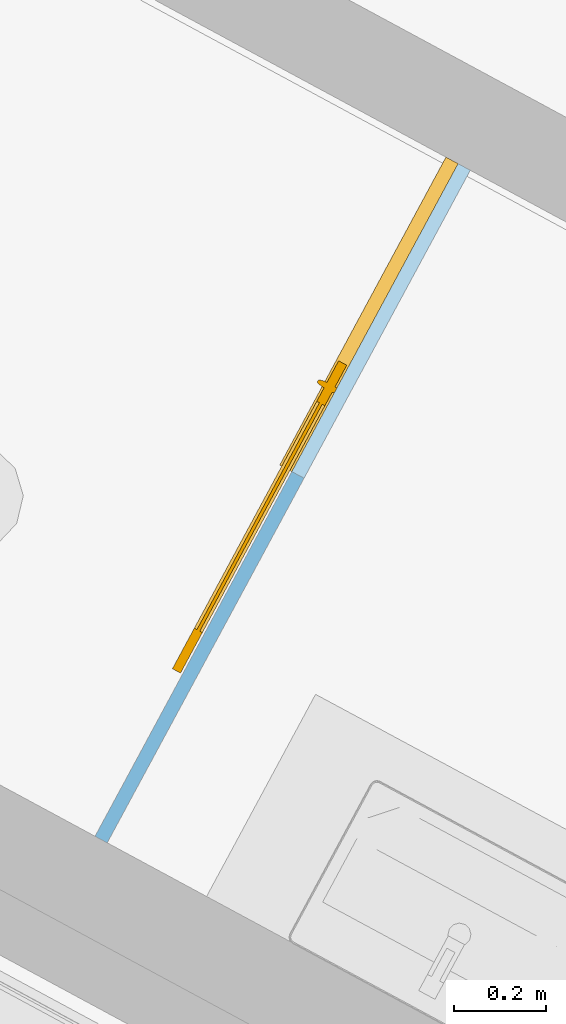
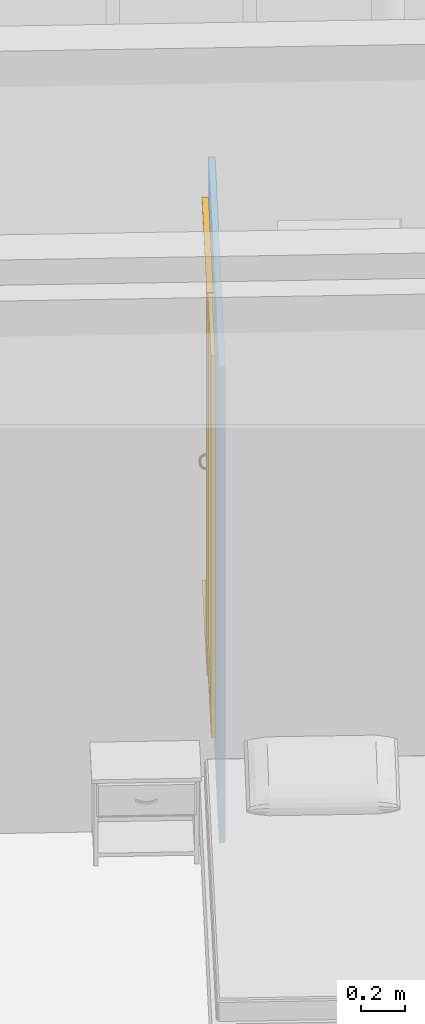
# One storey, part 7 of 41: 1 door, 1 opening, plus 1 element that does not belong to this part.
"""IFC2X3 building model written with IfcOpenShell, lengths in metres."""

from ifc_helpers import new_model, entity, si_unit, converted_unit, derived_unit, money_unit, direction, frame, origin_with_axes, place, context, subcontext, project, spatial, polyline, outline, extrude, faceted_brep, material, layer, layer_set, layer_usage, type_object, element, fill, save


model = new_model("IFC2X3")

# Units and contexts
model_context = context("Model", 3, precision=1e-05, world=origin_with_axes(), true_north=direction((0.0, 1.0)))
body_context = subcontext(model_context, "Body", "Model", "MODEL_VIEW")
ifc_project = project(units=[si_unit("LENGTHUNIT", "METRE"), si_unit("AREAUNIT", "SQUARE_METRE"), si_unit("VOLUMEUNIT", "CUBIC_METRE"), converted_unit("PLANEANGLEUNIT", "DEGREE", entity("IfcPlaneAngleMeasure", 0.0174532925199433), si_unit("PLANEANGLEUNIT", "RADIAN"), dimensions=[0, 0, 0, 0, 0, 0, 0]), money_unit("EUR"), converted_unit("TIMEUNIT", "Year", entity("IfcTimeMeasure", 31556926.0), si_unit("TIMEUNIT", "SECOND"), dimensions=[0, 0, 1, 0, 0, 0, 0]), si_unit("MASSUNIT", "GRAM", prefix="KILO"), si_unit("THERMODYNAMICTEMPERATUREUNIT", "DEGREE_CELSIUS"), si_unit("LUMINOUSINTENSITYUNIT", "LUMEN"), si_unit("ENERGYUNIT", "JOULE", prefix="MEGA"), derived_unit("THERMALCONDUCTANCEUNIT", [(si_unit("POWERUNIT", "WATT"), 1), (si_unit("LENGTHUNIT", "METRE"), -1), (si_unit("THERMODYNAMICTEMPERATUREUNIT", "KELVIN"), -1)]), derived_unit("SPECIFICHEATCAPACITYUNIT", [(si_unit("ENERGYUNIT", "JOULE"), 1), (si_unit("MASSUNIT", "GRAM", prefix="KILO"), -1), (si_unit("THERMODYNAMICTEMPERATUREUNIT", "KELVIN"), -1)]), derived_unit("MASSDENSITYUNIT", [(si_unit("MASSUNIT", "GRAM", prefix="KILO"), 1), (si_unit("VOLUMEUNIT", "CUBIC_METRE"), -1)])], contexts=[model_context])

# Site, building, storey
site_placement = place(None, frame((-3.949935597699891, 1.740105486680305, 0.0), z_axis=(0.0, 0.0, 1.0), x_axis=(0.8799804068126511, -0.475009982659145, 0.0)))
site = spatial("IfcSite", under=ifc_project, at=site_placement, Name="Gelände", CompositionType="ELEMENT")
building_placement = place(site_placement, origin_with_axes())
building = spatial("IfcBuilding", under=site, at=building_placement, Name="Gebäude", CompositionType="ELEMENT")
storey_placement = place(building_placement, frame((0.0, 0.0, 4.55), z_axis=(0.0, 0.0, 1.0), x_axis=(1.0, 0.0, 0.0)))
storey = spatial("IfcBuildingStorey", under=building, at=storey_placement, Name="Staffelgeschoss", CompositionType="ELEMENT", Elevation=4.55)

# Wall, opening, door
ifc_material = material(Name="Glas, Normalglas-50% durchlässig")
ifc_layer = layer(ifc_material, 0.03, ventilated="UNKNOWN")
ifc_layer_set = layer_set([ifc_layer], Name="Glas, Normalglas-50% durchlässig 0.03")
ifc_layer_usage = layer_usage(ifc_layer_set, "AXIS2", "NEGATIVE", 0.0)
wall_type = type_object("IfcWallType", Name="Glas, Normalglas-50% durchlässig 30", PredefinedType="USERDEFINED")
wall_placement = place(storey_placement, frame((6.782480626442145, 5.493065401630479, -0.2999999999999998), z_axis=(0.0, 0.0, 1.0), x_axis=(0.0, 1.0, 0.0)))
wall = element("IfcWallStandardCase", 1, at=wall_placement, inside=storey, type_object=wall_type, material=ifc_layer_usage, Name="L-Wand033", ObjectType="PARTITIONING", context=body_context, shape_type="SweptSolid", body=[
    extrude(outline(polyline([(0.0, -0.03000000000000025), (1.659970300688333, -0.03000000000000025), (1.659970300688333, 0.0), (0.0, 0.0), (0.0, -0.03000000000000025)])), origin_with_axes(), (0.0, 0.0, 1.0), 2.654999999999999),
])
opening_placement = place(wall_placement, frame((1.279970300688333, 0.0, 0.2999999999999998), z_axis=(0.0, 0.0, 1.0), x_axis=(1.0, 0.0, 0.0)))
opening = element("IfcOpeningElement", 2, at=opening_placement, cuts=wall, Name="Tür-017", context=body_context, shape_type="Brep", body=[
    faceted_brep([(-0.3799999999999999, 0.001000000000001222, 2.105), (-0.3799999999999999, 0.0, 2.105), (-0.3799999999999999, 0.0, 0.0), (-0.3799999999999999, -0.03100000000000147, 0.0), (-0.3799999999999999, -0.03100000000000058, 2.135), (-0.3799999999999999, 0.001000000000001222, 2.135), (-0.3799999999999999, 0.03000000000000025, 2.105), (-1.28, 0.03000000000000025, 2.105), (-1.28, 0.0, 2.105), (-1.28, 0.0, 0.0), (-0.3799999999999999, 0.001000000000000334, 0.0), (0.3799999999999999, 0.001000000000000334, 0.0), (0.3799999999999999, -0.03100000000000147, 0.0), (0.3799999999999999, -0.03100000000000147, 2.135), (0.3799999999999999, 0.001000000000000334, 2.135), (-0.3799999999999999, 0.03000000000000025, 0.0), (-1.28, 0.03000000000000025, 0.0)], [[[0, 1, 2, 3, 4, 5]], [[1, 0, 6, 7, 8]], [[2, 1, 8, 9]], [[2, 10, 11, 12, 3]], [[4, 3, 12, 13]], [[14, 5, 4, 13]], [[10, 0, 5, 14, 11]], [[0, 10, 15, 6]], [[7, 6, 15, 16]], [[8, 7, 16, 9]], [[10, 2, 9, 16, 15]], [[11, 14, 13, 12]]]),
])
door_style = type_object("IfcDoorStyle", Name="Schiebetür 02 1-Fl 26", ConstructionType="NOTDEFINED", OperationType="SLIDING_TO_LEFT", ParameterTakesPrecedence=False, Sizeable=False)
door_placement = place(opening_placement, frame((0.3799999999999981, 0.0, 0.0), z_axis=(0.0, 0.0, 1.0), x_axis=(-1.0, 0.0, 0.0)))
door = element("IfcDoor", 3, at=door_placement, inside=storey, type_object=door_style, Name="Tür-017", ObjectType="DOOR", OverallHeight=2.135, OverallWidth=0.76, context=body_context, shape_type="Brep", body=[
    faceted_brep([(4.999999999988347e-05, 0.0, 0.0), (4.999999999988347e-05, 0.0, 0.003000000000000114), (0.7599499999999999, 0.0, 0.003000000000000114), (0.7599499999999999, 0.0, 0.0), (4.999999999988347e-05, -0.03000000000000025, 0.0), (4.999999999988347e-05, -0.03000000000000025, 0.003000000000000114), (0.7599499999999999, -0.03000000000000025, 0.003000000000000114), (0.7599499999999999, -0.03000000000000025, 0.0)], [[[0, 1, 2, 3]], [[0, 4, 5, 1]], [[1, 5, 6, 2]], [[3, 2, 6, 7]], [[4, 0, 3, 7]], [[5, 4, 7, 6]]]),
    faceted_brep([(4.999999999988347e-05, 0.0, 2.134899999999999), (4.999999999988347e-05, -0.03000000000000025, 2.134899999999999), (0.7599499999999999, -0.03000000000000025, 2.134899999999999), (0.7599499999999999, 0.0, 2.134899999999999), (4.999999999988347e-05, 0.0, 2.124899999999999), (4.999999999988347e-05, -0.003000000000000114, 2.124899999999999), (4.999999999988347e-05, -0.003000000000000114, 2.131899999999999), (4.999999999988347e-05, -0.02700000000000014, 2.131899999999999), (4.999999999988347e-05, -0.02700000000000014, 2.124899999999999), (4.999999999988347e-05, -0.03000000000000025, 2.124899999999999), (0.7599499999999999, -0.03000000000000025, 2.124899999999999), (0.7599499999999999, -0.02700000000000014, 2.124899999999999), (0.7599499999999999, -0.02700000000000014, 2.131899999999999), (0.7599499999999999, -0.003000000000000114, 2.131899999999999), (0.7599499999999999, -0.003000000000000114, 2.124899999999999), (0.7599499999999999, 0.0, 2.124899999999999)], [[[0, 1, 2, 3]], [[0, 4, 5, 6, 7, 8, 9, 1]], [[1, 9, 10, 2]], [[3, 2, 10, 11, 12, 13, 14, 15]], [[4, 0, 3, 15]], [[5, 4, 15, 14]], [[6, 5, 14, 13]], [[7, 6, 13, 12]], [[8, 7, 12, 11]], [[9, 8, 11, 10]]]),
    faceted_brep([(1.25995, -0.004999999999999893, 0.1029999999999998), (1.25995, -0.02500000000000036, 0.1029999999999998), (1.15995, -0.02500000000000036, 0.1029999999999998), (1.15995, -0.004999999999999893, 0.1029999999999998), (1.25995, -0.004999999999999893, 2.031899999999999), (1.25995, -0.02500000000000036, 2.031899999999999), (1.15995, -0.02500000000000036, 2.031899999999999), (1.15995, -0.004999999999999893, 2.031899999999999)], [[[0, 1, 2, 3]], [[4, 5, 1, 0]], [[1, 5, 6, 2]], [[3, 2, 6, 7]], [[0, 3, 7, 4]], [[7, 6, 5, 4]]]),
    faceted_brep([(0.5000499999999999, -0.004999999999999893, 2.031899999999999), (0.5000499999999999, -0.02500000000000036, 2.031899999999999), (0.6000499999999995, -0.02500000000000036, 2.031899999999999), (0.6000499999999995, -0.004999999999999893, 2.031899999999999), (0.5000499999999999, -0.004999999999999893, 0.1029999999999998), (0.5000499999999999, -0.02500000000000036, 0.1029999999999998), (0.6000499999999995, -0.02500000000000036, 0.1029999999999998), (0.6000499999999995, -0.004999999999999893, 0.1029999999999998)], [[[0, 1, 2, 3]], [[4, 5, 1, 0]], [[1, 5, 6, 2]], [[3, 2, 6, 7]], [[0, 3, 7, 4]], [[7, 6, 5, 4]]]),
    faceted_brep([(0.5000499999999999, -0.004999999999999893, 0.003000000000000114), (0.5000499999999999, -0.02500000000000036, 0.003000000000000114), (0.5000499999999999, -0.02500000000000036, 0.1029999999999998), (0.5000499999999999, -0.004999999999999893, 0.1029999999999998), (1.25995, -0.004999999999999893, 0.003000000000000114), (1.25995, -0.02500000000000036, 0.003000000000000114), (1.25995, -0.02500000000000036, 0.1029999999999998), (1.15995, -0.02500000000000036, 0.1029999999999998), (0.6000499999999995, -0.02500000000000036, 0.1029999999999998), (0.6000499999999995, -0.004999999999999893, 0.1029999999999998), (1.15995, -0.004999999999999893, 0.1029999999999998), (1.25995, -0.004999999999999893, 0.1029999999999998)], [[[0, 1, 2, 3]], [[4, 5, 1, 0]], [[1, 5, 6, 7, 8, 2]], [[3, 2, 8, 9]], [[0, 3, 9, 10, 11, 4]], [[11, 6, 5, 4]], [[10, 7, 6, 11]], [[9, 8, 7, 10]]]),
    faceted_brep([(1.25995, -0.004999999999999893, 2.131899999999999), (1.25995, -0.02500000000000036, 2.131899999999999), (1.25995, -0.02500000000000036, 2.031899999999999), (1.25995, -0.004999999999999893, 2.031899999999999), (0.5000499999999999, -0.004999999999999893, 2.131899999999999), (0.5000499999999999, -0.02500000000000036, 2.131899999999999), (0.5000499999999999, -0.02500000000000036, 2.031899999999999), (0.6000499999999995, -0.02500000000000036, 2.031899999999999), (1.15995, -0.02500000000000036, 2.031899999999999), (1.15995, -0.004999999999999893, 2.031899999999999), (0.6000499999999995, -0.004999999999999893, 2.031899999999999), (0.5000499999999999, -0.004999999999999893, 2.031899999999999)], [[[0, 1, 2, 3]], [[4, 5, 1, 0]], [[1, 5, 6, 7, 8, 2]], [[3, 2, 8, 9]], [[0, 3, 9, 10, 11, 4]], [[11, 6, 5, 4]], [[10, 7, 6, 11]], [[9, 8, 7, 10]]]),
    faceted_brep([(1.15995, -0.01149999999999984, 0.1029999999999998), (1.15995, -0.01850000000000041, 0.1029999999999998), (0.6000499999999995, -0.01850000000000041, 0.1029999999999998), (0.6000499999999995, -0.01149999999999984, 0.1029999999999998), (1.15995, -0.01149999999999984, 2.0379), (1.15995, -0.01850000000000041, 2.0379), (0.6000499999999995, -0.01850000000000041, 2.0379), (0.6000499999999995, -0.01149999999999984, 2.0379)], [[[0, 1, 2, 3]], [[4, 5, 1, 0]], [[1, 5, 6, 2]], [[3, 2, 6, 7]], [[0, 3, 7, 4]], [[7, 6, 5, 4]]]),
    faceted_brep([(0.56705, -0.04000000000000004, 1.088980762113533), (0.56705, -0.02500000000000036, 1.093), (0.5661121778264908, -0.02500000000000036, 1.0965), (0.5661121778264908, -0.0417500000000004, 1.092011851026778), (0.5661121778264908, -0.03824999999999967, 1.085949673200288), (0.5661121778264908, -0.02500000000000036, 1.0895), (0.5635500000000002, -0.02500000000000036, 1.086937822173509), (0.5600499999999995, -0.02500000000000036, 1.085999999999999), (0.5565499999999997, -0.02500000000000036, 1.086937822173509), (0.5539878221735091, -0.02500000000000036, 1.0895), (0.5530499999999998, -0.02500000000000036, 1.093), (0.5539878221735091, -0.02500000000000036, 1.0965), (0.5565499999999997, -0.02500000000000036, 1.099062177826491), (0.5600499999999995, -0.02500000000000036, 1.1), (0.5635500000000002, -0.02500000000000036, 1.099062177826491), (0.5635500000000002, -0.0430310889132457, 1.094230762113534), (0.56705, -0.0509807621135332, 1.078), (0.5661121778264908, -0.05401185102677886, 1.07975), (0.5635500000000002, -0.03696891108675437, 1.083730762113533), (0.5661121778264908, -0.04794967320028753, 1.07625), (0.5600499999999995, -0.0365000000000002, 1.082918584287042), (0.5565499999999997, -0.03696891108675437, 1.083730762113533), (0.5539878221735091, -0.03824999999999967, 1.085949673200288), (0.5530499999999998, -0.04000000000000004, 1.088980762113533), (0.5539878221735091, -0.0417500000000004, 1.092011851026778), (0.5565499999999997, -0.0430310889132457, 1.094230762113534), (0.5600499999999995, -0.04349999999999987, 1.095042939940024), (0.5635500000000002, -0.05623076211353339, 1.081031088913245), (0.56705, -0.05499999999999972, 1.063), (0.5661121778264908, -0.05850000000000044, 1.063), (0.5635500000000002, -0.045730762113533, 1.074968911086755), (0.5661121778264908, -0.05149999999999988, 1.063), (0.5600499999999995, -0.04491858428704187, 1.0745), (0.5565499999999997, -0.045730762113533, 1.074968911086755), (0.5539878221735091, -0.04794967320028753, 1.07625), (0.5530499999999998, -0.0509807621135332, 1.078), (0.5539878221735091, -0.05401185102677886, 1.07975), (0.5565499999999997, -0.05623076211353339, 1.081031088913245), (0.5600499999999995, -0.05704293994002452, 1.0815), (0.5635500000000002, -0.06106217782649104, 1.063), (0.5600499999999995, -0.06200000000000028, 1.063), (0.5565499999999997, -0.06106217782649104, 1.063), (0.5539878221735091, -0.05850000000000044, 1.063), (0.5530499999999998, -0.05499999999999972, 1.063), (0.5539878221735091, -0.05149999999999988, 1.063), (0.5565499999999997, -0.04893782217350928, 1.063), (0.5600499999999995, -0.04800000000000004, 1.063), (0.5635500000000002, -0.04893782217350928, 1.063)], [[[0, 1, 2, 3]], [[4, 5, 1, 0]], [[1, 5, 6, 7, 8, 9, 10, 11, 12, 13, 14, 2]], [[3, 2, 14, 15]], [[16, 0, 3, 17]], [[18, 6, 5, 4]], [[19, 4, 0, 16]], [[20, 7, 6, 18]], [[21, 8, 7, 20]], [[22, 9, 8, 21]], [[23, 10, 9, 22]], [[24, 11, 10, 23]], [[25, 12, 11, 24]], [[26, 13, 12, 25]], [[15, 14, 13, 26]], [[17, 3, 15, 27]], [[28, 16, 17, 29]], [[30, 18, 4, 19]], [[31, 19, 16, 28]], [[32, 20, 18, 30]], [[33, 21, 20, 32]], [[34, 22, 21, 33]], [[35, 23, 22, 34]], [[36, 24, 23, 35]], [[37, 25, 24, 36]], [[38, 26, 25, 37]], [[27, 15, 26, 38]], [[29, 17, 27, 39]], [[28, 29, 39, 40, 41, 42, 43, 44, 45, 46, 47, 31]], [[47, 30, 19, 31]], [[46, 32, 30, 47]], [[45, 33, 32, 46]], [[44, 34, 33, 45]], [[43, 35, 34, 44]], [[42, 36, 35, 43]], [[41, 37, 36, 42]], [[40, 38, 37, 41]], [[39, 27, 38, 40]]]),
    faceted_brep([(0.5530499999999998, -0.04000000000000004, 1.017019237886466), (0.5530499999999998, -0.02500000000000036, 1.013), (0.5539878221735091, -0.02500000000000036, 1.0095), (0.5539878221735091, -0.0417500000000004, 1.013988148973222), (0.5539878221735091, -0.03824999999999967, 1.020050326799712), (0.5539878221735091, -0.02500000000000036, 1.0165), (0.5565499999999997, -0.02500000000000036, 1.019062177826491), (0.5600499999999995, -0.02500000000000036, 1.02), (0.5635500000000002, -0.02500000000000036, 1.019062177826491), (0.5661121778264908, -0.02500000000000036, 1.0165), (0.56705, -0.02500000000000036, 1.013), (0.5661121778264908, -0.02500000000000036, 1.0095), (0.5635500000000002, -0.02500000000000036, 1.006937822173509), (0.5600499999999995, -0.02500000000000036, 1.006), (0.5565499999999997, -0.02500000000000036, 1.006937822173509), (0.5565499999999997, -0.0430310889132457, 1.011769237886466), (0.5530499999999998, -0.0509807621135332, 1.028), (0.5539878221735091, -0.05401185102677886, 1.02625), (0.5565499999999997, -0.03696891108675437, 1.022269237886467), (0.5539878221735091, -0.04794967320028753, 1.02975), (0.5600499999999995, -0.0365000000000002, 1.023081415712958), (0.5635500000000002, -0.03696891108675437, 1.022269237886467), (0.5661121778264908, -0.03824999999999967, 1.020050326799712), (0.56705, -0.04000000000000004, 1.017019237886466), (0.5661121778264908, -0.0417500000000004, 1.013988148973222), (0.5635500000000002, -0.0430310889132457, 1.011769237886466), (0.5600499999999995, -0.04349999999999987, 1.010957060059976), (0.5565499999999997, -0.05623076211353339, 1.024968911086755), (0.5530499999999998, -0.05499999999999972, 1.043), (0.5539878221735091, -0.05850000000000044, 1.043), (0.5565499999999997, -0.045730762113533, 1.031031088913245), (0.5539878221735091, -0.05149999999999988, 1.043), (0.5600499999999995, -0.04491858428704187, 1.0315), (0.5635500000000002, -0.045730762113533, 1.031031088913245), (0.5661121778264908, -0.04794967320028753, 1.02975), (0.56705, -0.0509807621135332, 1.028), (0.5661121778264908, -0.05401185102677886, 1.02625), (0.5635500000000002, -0.05623076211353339, 1.024968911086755), (0.5600499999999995, -0.05704293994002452, 1.0245), (0.5565499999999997, -0.06106217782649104, 1.043), (0.5600499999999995, -0.06200000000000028, 1.043), (0.5635500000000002, -0.06106217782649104, 1.043), (0.5661121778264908, -0.05850000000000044, 1.043), (0.56705, -0.05499999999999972, 1.043), (0.5661121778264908, -0.05149999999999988, 1.043), (0.5635500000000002, -0.04893782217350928, 1.043), (0.5600499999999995, -0.04800000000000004, 1.043), (0.5565499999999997, -0.04893782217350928, 1.043)], [[[0, 1, 2, 3]], [[4, 5, 1, 0]], [[1, 5, 6, 7, 8, 9, 10, 11, 12, 13, 14, 2]], [[3, 2, 14, 15]], [[16, 0, 3, 17]], [[18, 6, 5, 4]], [[19, 4, 0, 16]], [[20, 7, 6, 18]], [[21, 8, 7, 20]], [[22, 9, 8, 21]], [[23, 10, 9, 22]], [[24, 11, 10, 23]], [[25, 12, 11, 24]], [[26, 13, 12, 25]], [[15, 14, 13, 26]], [[17, 3, 15, 27]], [[28, 16, 17, 29]], [[30, 18, 4, 19]], [[31, 19, 16, 28]], [[32, 20, 18, 30]], [[33, 21, 20, 32]], [[34, 22, 21, 33]], [[35, 23, 22, 34]], [[36, 24, 23, 35]], [[37, 25, 24, 36]], [[38, 26, 25, 37]], [[27, 15, 26, 38]], [[29, 17, 27, 39]], [[28, 29, 39, 40, 41, 42, 43, 44, 45, 46, 47, 31]], [[47, 30, 19, 31]], [[46, 32, 30, 47]], [[45, 33, 32, 46]], [[44, 34, 33, 45]], [[43, 35, 34, 44]], [[42, 36, 35, 43]], [[41, 37, 36, 42]], [[40, 38, 37, 41]], [[39, 27, 38, 40]]]),
    faceted_brep([(0.56705, -0.05499999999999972, 1.043), (0.5661121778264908, -0.05149999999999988, 1.043), (0.5661121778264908, -0.05149999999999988, 1.063), (0.56705, -0.05499999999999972, 1.063), (0.5661121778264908, -0.05850000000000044, 1.043), (0.5635500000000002, -0.06106217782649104, 1.043), (0.5600499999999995, -0.06200000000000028, 1.043), (0.5565499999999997, -0.06106217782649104, 1.043), (0.5539878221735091, -0.05850000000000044, 1.043), (0.5530499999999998, -0.05499999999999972, 1.043), (0.5539878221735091, -0.05149999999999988, 1.043), (0.5565499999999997, -0.04893782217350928, 1.043), (0.5600499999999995, -0.04800000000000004, 1.043), (0.5635500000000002, -0.04893782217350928, 1.043), (0.5635500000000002, -0.04893782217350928, 1.063), (0.5600499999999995, -0.04800000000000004, 1.063), (0.5565499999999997, -0.04893782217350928, 1.063), (0.5539878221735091, -0.05149999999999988, 1.063), (0.5530499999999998, -0.05499999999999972, 1.063), (0.5539878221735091, -0.05850000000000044, 1.063), (0.5565499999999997, -0.06106217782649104, 1.063), (0.5600499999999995, -0.06200000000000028, 1.063), (0.5635500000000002, -0.06106217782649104, 1.063), (0.5661121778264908, -0.05850000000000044, 1.063)], [[[0, 1, 2, 3]], [[0, 4, 5, 6, 7, 8, 9, 10, 11, 12, 13, 1]], [[1, 13, 14, 2]], [[3, 2, 14, 15, 16, 17, 18, 19, 20, 21, 22, 23]], [[4, 0, 3, 23]], [[5, 4, 23, 22]], [[6, 5, 22, 21]], [[7, 6, 21, 20]], [[8, 7, 20, 19]], [[9, 8, 19, 18]], [[10, 9, 18, 17]], [[11, 10, 17, 16]], [[12, 11, 16, 15]], [[13, 12, 15, 14]]]),
    faceted_brep([(0.56705, 0.009999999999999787, 1.088980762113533), (0.5661121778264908, 0.01175000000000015, 1.092011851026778), (0.5661121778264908, -0.004999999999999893, 1.0965), (0.56705, -0.004999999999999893, 1.093), (0.56705, 0.02098076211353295, 1.078), (0.5661121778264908, 0.02401185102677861, 1.07975), (0.5635500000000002, 0.01303108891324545, 1.094230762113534), (0.5635500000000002, -0.004999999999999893, 1.099062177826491), (0.5600499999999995, -0.004999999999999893, 1.1), (0.5565499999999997, -0.004999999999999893, 1.099062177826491), (0.5539878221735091, -0.004999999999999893, 1.0965), (0.5530499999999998, -0.004999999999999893, 1.093), (0.5539878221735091, -0.004999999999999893, 1.0895), (0.5565499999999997, -0.004999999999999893, 1.086937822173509), (0.5600499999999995, -0.004999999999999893, 1.085999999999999), (0.5635500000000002, -0.004999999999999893, 1.086937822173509), (0.5661121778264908, -0.004999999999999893, 1.0895), (0.5661121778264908, 0.008250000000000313, 1.085949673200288), (0.56705, 0.02499999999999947, 1.063), (0.5661121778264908, 0.02850000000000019, 1.063), (0.5635500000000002, 0.02623076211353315, 1.081031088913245), (0.5661121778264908, 0.01794967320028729, 1.07625), (0.5600499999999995, 0.01349999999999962, 1.095042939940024), (0.5565499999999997, 0.01303108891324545, 1.094230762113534), (0.5539878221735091, 0.01175000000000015, 1.092011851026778), (0.5530499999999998, 0.009999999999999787, 1.088980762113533), (0.5539878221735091, 0.008250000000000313, 1.085949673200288), (0.5565499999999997, 0.006968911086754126, 1.083730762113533), (0.5600499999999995, 0.00649999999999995, 1.082918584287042), (0.5635500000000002, 0.006968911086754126, 1.083730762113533), (0.5661121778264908, 0.02149999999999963, 1.063), (0.5635500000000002, 0.01893782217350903, 1.063), (0.5600499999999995, 0.01799999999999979, 1.063), (0.5565499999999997, 0.01893782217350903, 1.063), (0.5539878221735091, 0.02149999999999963, 1.063), (0.5530499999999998, 0.02499999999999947, 1.063), (0.5539878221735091, 0.02850000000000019, 1.063), (0.5565499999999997, 0.03106217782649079, 1.063), (0.5600499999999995, 0.03200000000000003, 1.063), (0.5635500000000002, 0.03106217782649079, 1.063), (0.5600499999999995, 0.02704293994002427, 1.0815), (0.5635500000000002, 0.01573076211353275, 1.074968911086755), (0.5565499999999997, 0.02623076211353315, 1.081031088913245), (0.5539878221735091, 0.02401185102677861, 1.07975), (0.5530499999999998, 0.02098076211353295, 1.078), (0.5539878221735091, 0.01794967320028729, 1.07625), (0.5565499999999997, 0.01573076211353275, 1.074968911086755), (0.5600499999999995, 0.01491858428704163, 1.0745)], [[[0, 1, 2, 3]], [[4, 5, 1, 0]], [[1, 6, 7, 2]], [[3, 2, 7, 8, 9, 10, 11, 12, 13, 14, 15, 16]], [[17, 0, 3, 16]], [[18, 19, 5, 4]], [[5, 20, 6, 1]], [[21, 4, 0, 17]], [[6, 22, 8, 7]], [[22, 23, 9, 8]], [[23, 24, 10, 9]], [[24, 25, 11, 10]], [[25, 26, 12, 11]], [[26, 27, 13, 12]], [[27, 28, 14, 13]], [[28, 29, 15, 14]], [[29, 17, 16, 15]], [[18, 30, 31, 32, 33, 34, 35, 36, 37, 38, 39, 19]], [[19, 39, 20, 5]], [[30, 18, 4, 21]], [[20, 40, 22, 6]], [[41, 21, 17, 29]], [[40, 42, 23, 22]], [[42, 43, 24, 23]], [[43, 44, 25, 24]], [[44, 45, 26, 25]], [[45, 46, 27, 26]], [[46, 47, 28, 27]], [[47, 41, 29, 28]], [[31, 30, 21, 41]], [[32, 31, 41, 47]], [[33, 32, 47, 46]], [[34, 33, 46, 45]], [[35, 34, 45, 44]], [[36, 35, 44, 43]], [[37, 36, 43, 42]], [[38, 37, 42, 40]], [[39, 38, 40, 20]]]),
    faceted_brep([(0.5530499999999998, 0.009999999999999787, 1.017019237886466), (0.5539878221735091, 0.01175000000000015, 1.013988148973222), (0.5539878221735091, -0.004999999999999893, 1.0095), (0.5530499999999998, -0.004999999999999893, 1.013), (0.5530499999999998, 0.02098076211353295, 1.028), (0.5539878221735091, 0.02401185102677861, 1.02625), (0.5565499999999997, 0.01303108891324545, 1.011769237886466), (0.5565499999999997, -0.004999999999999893, 1.006937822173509), (0.5600499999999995, -0.004999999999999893, 1.006), (0.5635500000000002, -0.004999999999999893, 1.006937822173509), (0.5661121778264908, -0.004999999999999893, 1.0095), (0.56705, -0.004999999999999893, 1.013), (0.5661121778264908, -0.004999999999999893, 1.0165), (0.5635500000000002, -0.004999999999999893, 1.019062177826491), (0.5600499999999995, -0.004999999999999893, 1.02), (0.5565499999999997, -0.004999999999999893, 1.019062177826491), (0.5539878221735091, -0.004999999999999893, 1.0165), (0.5539878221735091, 0.008250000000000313, 1.020050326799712), (0.5530499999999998, 0.02499999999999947, 1.043), (0.5539878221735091, 0.02850000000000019, 1.043), (0.5565499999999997, 0.02623076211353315, 1.024968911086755), (0.5539878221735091, 0.01794967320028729, 1.02975), (0.5600499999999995, 0.01349999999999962, 1.010957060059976), (0.5635500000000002, 0.01303108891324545, 1.011769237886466), (0.5661121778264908, 0.01175000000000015, 1.013988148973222), (0.56705, 0.009999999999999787, 1.017019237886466), (0.5661121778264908, 0.008250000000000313, 1.020050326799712), (0.5635500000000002, 0.006968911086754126, 1.022269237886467), (0.5600499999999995, 0.00649999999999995, 1.023081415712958), (0.5565499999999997, 0.006968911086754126, 1.022269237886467), (0.5539878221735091, 0.02149999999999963, 1.043), (0.5565499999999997, 0.01893782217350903, 1.043), (0.5600499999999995, 0.01799999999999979, 1.043), (0.5635500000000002, 0.01893782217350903, 1.043), (0.5661121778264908, 0.02149999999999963, 1.043), (0.56705, 0.02499999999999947, 1.043), (0.5661121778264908, 0.02850000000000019, 1.043), (0.5635500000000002, 0.03106217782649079, 1.043), (0.5600499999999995, 0.03200000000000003, 1.043), (0.5565499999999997, 0.03106217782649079, 1.043), (0.5600499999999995, 0.02704293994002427, 1.0245), (0.5565499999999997, 0.01573076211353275, 1.031031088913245), (0.5635500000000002, 0.02623076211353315, 1.024968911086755), (0.5661121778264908, 0.02401185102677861, 1.02625), (0.56705, 0.02098076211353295, 1.028), (0.5661121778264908, 0.01794967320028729, 1.02975), (0.5635500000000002, 0.01573076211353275, 1.031031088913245), (0.5600499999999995, 0.01491858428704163, 1.0315)], [[[0, 1, 2, 3]], [[4, 5, 1, 0]], [[1, 6, 7, 2]], [[3, 2, 7, 8, 9, 10, 11, 12, 13, 14, 15, 16]], [[17, 0, 3, 16]], [[18, 19, 5, 4]], [[5, 20, 6, 1]], [[21, 4, 0, 17]], [[6, 22, 8, 7]], [[22, 23, 9, 8]], [[23, 24, 10, 9]], [[24, 25, 11, 10]], [[25, 26, 12, 11]], [[26, 27, 13, 12]], [[27, 28, 14, 13]], [[28, 29, 15, 14]], [[29, 17, 16, 15]], [[18, 30, 31, 32, 33, 34, 35, 36, 37, 38, 39, 19]], [[19, 39, 20, 5]], [[30, 18, 4, 21]], [[20, 40, 22, 6]], [[41, 21, 17, 29]], [[40, 42, 23, 22]], [[42, 43, 24, 23]], [[43, 44, 25, 24]], [[44, 45, 26, 25]], [[45, 46, 27, 26]], [[46, 47, 28, 27]], [[47, 41, 29, 28]], [[31, 30, 21, 41]], [[32, 31, 41, 47]], [[33, 32, 47, 46]], [[34, 33, 46, 45]], [[35, 34, 45, 44]], [[36, 35, 44, 43]], [[37, 36, 43, 42]], [[38, 37, 42, 40]], [[39, 38, 40, 20]]]),
    faceted_brep([(0.56705, 0.02499999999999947, 1.043), (0.56705, 0.02499999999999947, 1.063), (0.5661121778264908, 0.02149999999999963, 1.063), (0.5661121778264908, 0.02149999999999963, 1.043), (0.5661121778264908, 0.02850000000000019, 1.043), (0.5661121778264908, 0.02850000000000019, 1.063), (0.5635500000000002, 0.03106217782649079, 1.063), (0.5600499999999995, 0.03200000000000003, 1.063), (0.5565499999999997, 0.03106217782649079, 1.063), (0.5539878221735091, 0.02850000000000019, 1.063), (0.5530499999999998, 0.02499999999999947, 1.063), (0.5539878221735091, 0.02149999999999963, 1.063), (0.5565499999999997, 0.01893782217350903, 1.063), (0.5600499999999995, 0.01799999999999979, 1.063), (0.5635500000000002, 0.01893782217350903, 1.063), (0.5635500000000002, 0.01893782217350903, 1.043), (0.5600499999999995, 0.01799999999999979, 1.043), (0.5565499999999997, 0.01893782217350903, 1.043), (0.5539878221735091, 0.02149999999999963, 1.043), (0.5530499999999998, 0.02499999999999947, 1.043), (0.5539878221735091, 0.02850000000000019, 1.043), (0.5565499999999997, 0.03106217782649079, 1.043), (0.5600499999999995, 0.03200000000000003, 1.043), (0.5635500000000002, 0.03106217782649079, 1.043)], [[[0, 1, 2, 3]], [[4, 5, 1, 0]], [[1, 5, 6, 7, 8, 9, 10, 11, 12, 13, 14, 2]], [[3, 2, 14, 15]], [[0, 3, 15, 16, 17, 18, 19, 20, 21, 22, 23, 4]], [[23, 6, 5, 4]], [[22, 7, 6, 23]], [[21, 8, 7, 22]], [[20, 9, 8, 21]], [[19, 10, 9, 20]], [[18, 11, 10, 19]], [[17, 12, 11, 18]], [[16, 13, 12, 17]], [[15, 14, 13, 16]]]),
])
fill(opening, door)

save(model, "model.ifc")
